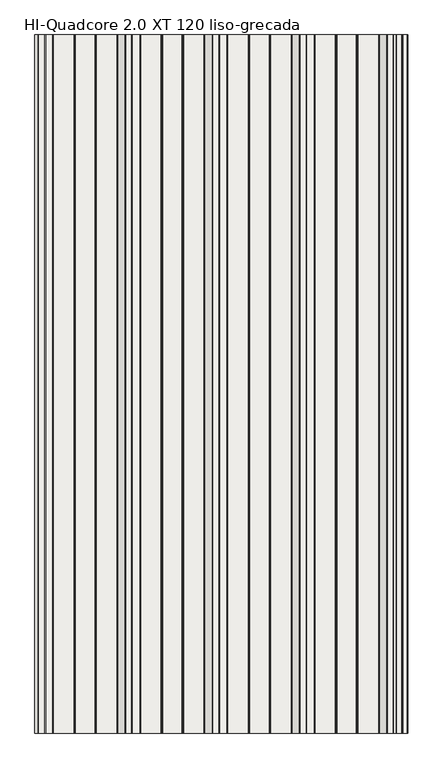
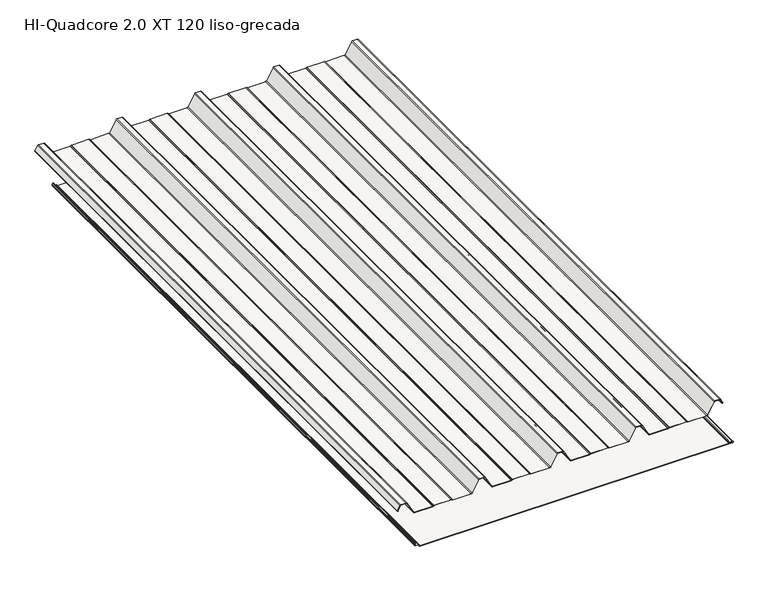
"""IFC4 building model written with IfcOpenShell, lengths in millimetres: slab geometry, HI_QuadCore2.0XT-XT DUAL : HI-Quadcore 2.0 XT 120 liso-grecada."""

from ifc_helpers import new_model, si_unit, point, frame, frame_2d, origin, place, context, project, spatial, polyline, circle_curve, trimmed, segment, composite_curve, outline, extrude, source, transform, mapped, element, save
from ifc_brep_helpers import plane_surface, cylinder_surface, revolved_surface, advanced_brep


def hi_quadcore_2_0_xt_120_liso_grecada_8e815707(model_context):
    return source(origin(), model_context, "Body", "SolidModel", [
        advanced_brep(
        [(1186.4313891, 0.0, 13.3795578), (1185.8456418, 0.0, 11.9654043), (1185.8456037, 0.0, 8.2995811), (1187.6996787, 0.0, 6.328543), (1198.1077232, 0.0, 5.5663871), (1199.9032632, 0.0, 3.5769209), (1199.9033076, 0.0, 1.9756011), (1201.903363, 0.0, -0.0243435), (2197.9162803, 0.0, 0.003269), (2199.9046779, 0.0, 2.0032908), (2199.904653, 0.0, 2.9012893), (2198.0077486, 0.0, 4.8985749), (2186.1928118, 0.0, 5.7933732), (2184.3438482, 0.0, 7.7876066), (2184.3437386, 0.0, 11.7402379), (2183.757913, 0.0, 13.1544352), (2182.3436602, 0.0, 14.5686095), (2181.7779748, 0.0, 14.0029241), (2183.1922433, 0.0, 12.5887341), (2183.5437386, 0.0, 11.7402157), (2183.5438482, 0.0, 7.7875844), (2186.1323972, 0.0, 4.9956577), (2197.958132, 0.0, 4.1000416), (2199.104653, 0.0, 2.9012672), (2199.1046779, 0.0, 2.0032686), (2197.9136554, 0.0, 0.8032689), (1201.9033408, 0.0, 0.7756565), (1200.7033076, 0.0, 1.9756233), (1200.7032632, 0.0, 3.5769431), (1198.1768616, 0.0, 6.3634663), (1187.7581044, 0.0, 7.1264067), (1186.6457428, 0.0, 8.3231689), (1186.6456418, 0.0, 11.965396), (1186.9970902, 0.0, 12.8138881), (1189.1032183, 0.0, 14.920133), (1188.5375329, 0.0, 15.4858184), (1186.4313891, 2000.0, 13.3795578), (1188.5375329, 2000.0, 15.4858184), (1189.1032183, 2000.0, 14.920133), (1186.9970902, 2000.0, 12.8138881), (1186.6456418, 2000.0, 11.965396), (1186.6456037, 2000.0, 8.2995728), (1187.7581044, 2000.0, 7.1264067), (1198.1768616, 2000.0, 6.3634663), (1200.7032632, 2000.0, 3.5769431), (1200.7033076, 2000.0, 1.9756233), (1201.9033408, 2000.0, 0.7756565), (2197.9136554, 2000.0, 0.8032689), (2199.1046779, 2000.0, 2.0032686), (2199.104653, 2000.0, 2.9012672), (2197.958132, 2000.0, 4.1000416), (2186.1323972, 2000.0, 4.9956577), (2183.5438482, 2000.0, 7.7875844), (2183.5437386, 2000.0, 11.7402157), (2183.1922433, 2000.0, 12.5887341), (2181.7779748, 2000.0, 14.0029241), (2182.3436602, 2000.0, 14.5686095), (2183.757913, 2000.0, 13.1544352), (2184.3437386, 2000.0, 11.7402379), (2184.3438482, 2000.0, 7.7876066), (2186.1928118, 2000.0, 5.7933732), (2198.0077486, 2000.0, 4.8985749), (2199.904653, 2000.0, 2.9012893), (2199.9046779, 2000.0, 2.0032908), (2197.9162803, 2000.0, 0.003269), (1201.903363, 2000.0, -0.0243435), (1199.9033076, 2000.0, 1.9756011), (1199.9032632, 2000.0, 3.5769209), (1198.1077232, 2000.0, 5.5663871), (1187.6996787, 2000.0, 6.328543), (1185.8457428, 2000.0, 8.3231467), (1185.8456418, 2000.0, 11.9654043)],
        [
            (0, 1, circle_curve(frame((1187.8456418, 0.0, 11.9653834), z_axis=(0.0, -1.0, 0.0), x_axis=(1.0, 0.0, 0.0)), 2.0)),
            (1, 2),
            (2, 3, circle_curve(frame((1187.8457428, 0.0, 8.3232022), z_axis=(0.0, -1.0, 0.0), x_axis=(1.0, 0.0, 0.0)), 2.0)),
            (3, 4),
            (4, 5, circle_curve(frame((1197.9032632, 0.0, 3.5768655), z_axis=(0.0, 1.0, 0.0), x_axis=(1.0, 0.0, 0.0)), 2.0)),
            (5, 6),
            (6, 7, circle_curve(frame((1201.9033076, 0.0, 1.9756565), z_axis=(0.0, -1.0, 0.0), x_axis=(1.0, 0.0, 0.0)), 2.0)),
            (7, 8),
            (8, 9, circle_curve(frame((2197.9046779, 0.0, 2.0032353), z_axis=(0.0, -1.0, 0.0), x_axis=(1.0, 0.0, 0.0)), 2.0)),
            (9, 10),
            (10, 11, circle_curve(frame((2197.904653, 0.0, 2.9012339), z_axis=(0.0, -1.0, 0.0), x_axis=(1.0, 0.0, 0.0)), 2.0)),
            (11, 12),
            (12, 13, circle_curve(frame((2186.3438482, 0.0, 7.7876621), z_axis=(0.0, 1.0, 0.0), x_axis=(1.0, 0.0, 0.0)), 2.0)),
            (13, 14),
            (14, 15, circle_curve(frame((2182.3437386, 0.0, 11.7401824), z_axis=(0.0, -1.0, 0.0), x_axis=(1.0, 0.0, 0.0)), 2.0)),
            (15, 16),
            (16, 17),
            (17, 18),
            (18, 19, circle_curve(frame((2182.3437386, 0.0, 11.7401824), z_axis=(0.0, 1.0, 0.0), x_axis=(1.0, 0.0, 0.0)), 1.2)),
            (19, 20),
            (20, 21, circle_curve(frame((2186.3438482, 0.0, 7.7876621), z_axis=(0.0, -1.0, 0.0), x_axis=(1.0, 0.0, 0.0)), 2.8)),
            (21, 22),
            (22, 23, circle_curve(frame((2197.904653, 0.0, 2.9012339), z_axis=(0.0, 1.0, 0.0), x_axis=(1.0, 0.0, 0.0)), 1.2)),
            (23, 24),
            (24, 25, circle_curve(frame((2197.9046779, 0.0, 2.0032353), z_axis=(0.0, 1.0, 0.0), x_axis=(1.0, 0.0, 0.0)), 1.2)),
            (25, 26),
            (26, 27, circle_curve(frame((1201.9033076, 0.0, 1.9756565), z_axis=(0.0, 1.0, 0.0), x_axis=(1.0, 0.0, 0.0)), 1.2)),
            (27, 28),
            (28, 29, circle_curve(frame((1197.9032632, 0.0, 3.5768655), z_axis=(0.0, -1.0, 0.0), x_axis=(1.0, 0.0, 0.0)), 2.8)),
            (29, 30),
            (30, 31, circle_curve(frame((1187.8457428, 0.0, 8.3232022), z_axis=(0.0, 1.0, 0.0), x_axis=(1.0, 0.0, 0.0)), 1.2)),
            (31, 32),
            (32, 33, circle_curve(frame((1187.8456418, 0.0, 11.9653834), z_axis=(0.0, 1.0, 0.0), x_axis=(1.0, 0.0, 0.0)), 1.2)),
            (33, 34),
            (34, 35),
            (35, 0),
            (36, 37),
            (37, 38),
            (38, 39),
            (39, 40, circle_curve(frame((1187.8456418, 2000.0, 11.9653834), z_axis=(0.0, -1.0, 0.0), x_axis=(1.0, 0.0, 0.0)), 1.2)),
            (40, 41),
            (41, 42, circle_curve(frame((1187.8457428, 2000.0, 8.3232022), z_axis=(0.0, -1.0, 0.0), x_axis=(1.0, 0.0, 0.0)), 1.2)),
            (42, 43),
            (43, 44, circle_curve(frame((1197.9032632, 2000.0, 3.5768655), z_axis=(0.0, 1.0, 0.0), x_axis=(1.0, 0.0, 0.0)), 2.8)),
            (44, 45),
            (45, 46, circle_curve(frame((1201.9033076, 2000.0, 1.9756565), z_axis=(0.0, -1.0, 0.0), x_axis=(1.0, 0.0, 0.0)), 1.2)),
            (46, 47),
            (47, 48, circle_curve(frame((2197.9046779, 2000.0, 2.0032353), z_axis=(0.0, -1.0, 0.0), x_axis=(1.0, 0.0, 0.0)), 1.2)),
            (48, 49),
            (49, 50, circle_curve(frame((2197.904653, 2000.0, 2.9012339), z_axis=(0.0, -1.0, 0.0), x_axis=(1.0, 0.0, 0.0)), 1.2)),
            (50, 51),
            (51, 52, circle_curve(frame((2186.3438482, 2000.0, 7.7876621), z_axis=(0.0, 1.0, 0.0), x_axis=(1.0, 0.0, 0.0)), 2.8)),
            (52, 53),
            (53, 54, circle_curve(frame((2182.3437386, 2000.0, 11.7401824), z_axis=(0.0, -1.0, 0.0), x_axis=(1.0, 0.0, 0.0)), 1.2)),
            (54, 55),
            (55, 56),
            (56, 57),
            (57, 58, circle_curve(frame((2182.3437386, 2000.0, 11.7401824), z_axis=(0.0, 1.0, 0.0), x_axis=(1.0, 0.0, 0.0)), 2.0)),
            (58, 59),
            (59, 60, circle_curve(frame((2186.3438482, 2000.0, 7.7876621), z_axis=(0.0, -1.0, 0.0), x_axis=(1.0, 0.0, 0.0)), 2.0)),
            (60, 61),
            (61, 62, circle_curve(frame((2197.904653, 2000.0, 2.9012339), z_axis=(0.0, 1.0, 0.0), x_axis=(1.0, 0.0, 0.0)), 2.0)),
            (62, 63),
            (63, 64, circle_curve(frame((2197.9046779, 2000.0, 2.0032353), z_axis=(0.0, 1.0, 0.0), x_axis=(1.0, 0.0, 0.0)), 2.0)),
            (64, 65),
            (65, 66, circle_curve(frame((1201.9033076, 2000.0, 1.9756565), z_axis=(0.0, 1.0, 0.0), x_axis=(1.0, 0.0, 0.0)), 2.0)),
            (66, 67),
            (67, 68, circle_curve(frame((1197.9032632, 2000.0, 3.5768655), z_axis=(0.0, -1.0, 0.0), x_axis=(1.0, 0.0, 0.0)), 2.0)),
            (68, 69),
            (69, 70, circle_curve(frame((1187.8457428, 2000.0, 8.3232022), z_axis=(0.0, 1.0, 0.0), x_axis=(1.0, 0.0, 0.0)), 2.0)),
            (70, 71),
            (71, 36, circle_curve(frame((1187.8456418, 2000.0, 11.9653834), z_axis=(0.0, 1.0, 0.0), x_axis=(1.0, 0.0, 0.0)), 2.0)),
            (0, 36),
            (71, 1),
            (70, 2),
            (69, 3),
            (68, 4),
            (67, 5),
            (66, 6),
            (65, 7),
            (64, 8),
            (63, 9),
            (62, 10),
            (61, 11),
            (60, 12),
            (59, 13),
            (58, 14),
            (57, 15),
            (56, 16),
            (55, 17),
            (54, 18),
            (53, 19),
            (52, 20),
            (51, 21),
            (50, 22),
            (49, 23),
            (48, 24),
            (47, 25),
            (46, 26),
            (45, 27),
            (44, 28),
            (43, 29),
            (42, 30),
            (41, 31),
            (40, 32),
            (39, 33),
            (38, 34),
            (37, 35),
        ],
        [
            plane_surface(frame((1189.8456418, 0.0, 11.9653834), z_axis=(0.0, -1.0, 0.0), x_axis=(0.0, 0.0, 1.0))),
            plane_surface(frame((1189.8456418, 2000.0, 11.9653834), z_axis=(0.0, 1.0, 0.0), x_axis=(0.0, 0.0, -1.0))),
            cylinder_surface(frame((1187.8456418, 2000.0, 11.9653834), z_axis=(0.0, -1.0, 0.0), x_axis=(1.0, 0.0, 0.0)), 2.0),
            plane_surface(frame((1185.8456418, 0.0, 11.9654043), z_axis=(-0.9999999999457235, 0.0, 1.041887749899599e-05), x_axis=(0.0, 1.0, 0.0))),
            cylinder_surface(frame((1187.8457428, 2000.0, 8.3232022), z_axis=(0.0, -1.0, 0.0), x_axis=(1.0, 0.0, 0.0)), 2.0),
            plane_surface(frame((1187.6996787, 0.0, 6.328543), z_axis=(-0.07303203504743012, 0.0, -0.9973295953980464), x_axis=(0.0, 1.0, 0.0))),
            revolved_surface(polyline([(1199.9032632, 2000.0, 3.5768655), (1199.9032632, 0.0, 3.5768655)]), (1197.9032632, 2000.0, 3.5768655), (0.0, 1.0, 0.0)),
            plane_surface(frame((1199.9032632, 0.0, 3.5769209), z_axis=(-0.9999999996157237, 0.0, -2.7722781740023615e-05), x_axis=(0.0, 1.0, 0.0))),
            cylinder_surface(frame((1201.9033076, 2000.0, 1.9756565), z_axis=(0.0, -1.0, 0.0), x_axis=(1.0, 0.0, 0.0)), 2.0),
            plane_surface(frame((1201.903363, 0.0, -0.0243435), z_axis=(2.772298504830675e-05, 0.0, -0.9999999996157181), x_axis=(0.0, 1.0, 0.0))),
            cylinder_surface(frame((2197.9046779, 2000.0, 2.0032353), z_axis=(0.0, -1.0, 0.0), x_axis=(1.0, 0.0, 0.0)), 2.0),
            plane_surface(frame((2199.9046779, 0.0, 2.0032908), z_axis=(0.9999999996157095, 0.0, 2.7723295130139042e-05), x_axis=(0.0, 1.0, 0.0))),
            cylinder_surface(frame((2197.904653, 2000.0, 2.9012339), z_axis=(0.0, -1.0, 0.0), x_axis=(1.0, 0.0, 0.0)), 2.0),
            plane_surface(frame((2198.0077486, 0.0, 4.8985749), z_axis=(0.07551822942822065, 0.0, 0.9971444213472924), x_axis=(0.0, 1.0, 0.0))),
            revolved_surface(polyline([(2188.3438482, 2000.0, 7.7876621), (2188.3438482, 0.0, 7.7876621)]), (2186.3438482, 2000.0, 7.7876621), (0.0, 1.0, 0.0)),
            plane_surface(frame((2184.3438482, 0.0, 7.7876066), z_axis=(0.9999999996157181, 0.0, 2.7722984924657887e-05), x_axis=(0.0, 1.0, 0.0))),
            cylinder_surface(frame((2182.3437386, 2000.0, 11.7401824), z_axis=(0.0, -1.0, 0.0), x_axis=(1.0, 0.0, 0.0)), 2.0),
            plane_surface(frame((2183.757913, 0.0, 13.1544352), z_axis=(0.7070871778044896, 0.0, 0.7071263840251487), x_axis=(0.0, 1.0, 0.0))),
            plane_surface(frame((2182.3436602, 0.0, 14.5686095), z_axis=(-0.7071067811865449, 0.0, 0.7071067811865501), x_axis=(0.0, 1.0, 0.0))),
            plane_surface(frame((2181.7779748, 0.0, 14.0029241), z_axis=(-0.7070871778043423, 0.0, -0.707126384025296), x_axis=(0.0, 1.0, 0.0))),
            revolved_surface(polyline([(2183.5437386, 2000.0, 11.7401824), (2183.5437386, 0.0, 11.7401824)]), (2182.3437386, 2000.0, 11.7401824), (0.0, 1.0, 0.0)),
            plane_surface(frame((2183.5437386, 0.0, 11.7402157), z_axis=(-0.9999999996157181, 0.0, -2.7722985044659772e-05), x_axis=(0.0, 1.0, 0.0))),
            cylinder_surface(frame((2186.3438482, 2000.0, 7.7876621), z_axis=(0.0, -1.0, 0.0), x_axis=(1.0, 0.0, 0.0)), 2.8),
            plane_surface(frame((2186.1323972, 0.0, 4.9956577), z_axis=(-0.07551822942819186, 0.0, -0.9971444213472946), x_axis=(0.0, 1.0, 0.0))),
            revolved_surface(polyline([(2199.104653, 2000.0, 2.9012339), (2199.104653, 0.0, 2.9012339)]), (2197.904653, 2000.0, 2.9012339), (0.0, 1.0, 0.0)),
            plane_surface(frame((2199.104653, 0.0, 2.9012672), z_axis=(-0.9999999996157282, 0.0, -2.7722622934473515e-05), x_axis=(0.0, 1.0, 0.0))),
            revolved_surface(polyline([(2199.1046779, 2000.0, 2.0032353), (2199.1046779, 0.0, 2.0032353)]), (2197.9046779, 2000.0, 2.0032353), (0.0, 1.0, 0.0)),
            plane_surface(frame((2197.9136554, 0.0, 0.8032689), z_axis=(-2.7722985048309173e-05, 0.0, 0.9999999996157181), x_axis=(0.0, 1.0, 0.0))),
            revolved_surface(polyline([(1203.1033076, 2000.0, 1.9756565), (1203.1033076, 0.0, 1.9756565)]), (1201.9033076, 2000.0, 1.9756565), (0.0, 1.0, 0.0)),
            plane_surface(frame((1200.7033076, 0.0, 1.9756233), z_axis=(0.9999999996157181, 0.0, 2.7722983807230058e-05), x_axis=(0.0, 1.0, 0.0))),
            cylinder_surface(frame((1197.9032632, 2000.0, 3.5768655), z_axis=(0.0, -1.0, 0.0), x_axis=(1.0, 0.0, 0.0)), 2.8),
            plane_surface(frame((1198.1768616, 0.0, 6.3634663), z_axis=(0.0730320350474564, 0.0, 0.9973295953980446), x_axis=(0.0, 1.0, 0.0))),
            revolved_surface(polyline([(1189.0457428, 2000.0, 8.3232022), (1189.0457428, 0.0, 8.3232022)]), (1187.8457428, 2000.0, 8.3232022), (0.0, 1.0, 0.0)),
            plane_surface(frame((1186.6456037, 0.0, 8.2995728), z_axis=(0.9999999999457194, 0.0, -1.0419274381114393e-05), x_axis=(0.0, 1.0, 0.0))),
            revolved_surface(polyline([(1189.0456418, 2000.0, 11.9653834), (1189.0456418, 0.0, 11.9653834)]), (1187.8456418, 2000.0, 11.9653834), (0.0, 1.0, 0.0)),
            plane_surface(frame((1186.9970902, 0.0, 12.8138881), z_axis=(0.7071263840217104, 0.0, -0.7070871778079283), x_axis=(0.0, 1.0, 0.0))),
            plane_surface(frame((1189.1032183, 0.0, 14.920133), z_axis=(0.7071067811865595, 0.0, 0.7071067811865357), x_axis=(0.0, 1.0, 0.0))),
            plane_surface(frame((1188.5375329, 0.0, 15.4858184), z_axis=(-0.7071263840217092, 0.0, 0.7070871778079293), x_axis=(0.0, 1.0, 0.0))),
        ],
        [
            (0, [[1, 2, 3, 4, 5, 6, 7, 8, 9, 10, 11, 12, 13, 14, 15, 16, 17, 18, 19, 20, 21, 22, 23, 24, 25, 26, 27, 28, 29, 30, 31, 32, 33, 34, 35, 36]]),
            (1, [[37, 38, 39, 40, 41, 42, 43, 44, 45, 46, 47, 48, 49, 50, 51, 52, 53, 54, 55, 56, 57, 58, 59, 60, 61, 62, 63, 64, 65, 66, 67, 68, 69, 70, 71, 72]]),
            (2, [[-1, 73, -72, 74]]),
            (3, [[-2, -74, -71, 75]]),
            (4, [[-3, -75, -70, 76]]),
            (5, [[-4, -76, -69, 77]]),
            (6, [[-5, -77, -68, 78]]),
            (7, [[-6, -78, -67, 79]]),
            (8, [[-7, -79, -66, 80]]),
            (9, [[-8, -80, -65, 81]]),
            (10, [[-9, -81, -64, 82]]),
            (11, [[-10, -82, -63, 83]]),
            (12, [[-11, -83, -62, 84]]),
            (13, [[-12, -84, -61, 85]]),
            (14, [[-13, -85, -60, 86]]),
            (15, [[-14, -86, -59, 87]]),
            (16, [[-15, -87, -58, 88]]),
            (17, [[-16, -88, -57, 89]]),
            (18, [[-17, -89, -56, 90]]),
            (19, [[-18, -90, -55, 91]]),
            (20, [[-19, -91, -54, 92]]),
            (21, [[-20, -92, -53, 93]]),
            (22, [[-21, -93, -52, 94]]),
            (23, [[-22, -94, -51, 95]]),
            (24, [[-23, -95, -50, 96]]),
            (25, [[-24, -96, -49, 97]]),
            (26, [[-25, -97, -48, 98]]),
            (27, [[-26, -98, -47, 99]]),
            (28, [[-27, -99, -46, 100]]),
            (29, [[-28, -100, -45, 101]]),
            (30, [[-29, -101, -44, 102]]),
            (31, [[-30, -102, -43, 103]]),
            (32, [[-31, -103, -42, 104]]),
            (33, [[-32, -104, -41, 105]]),
            (34, [[-33, -105, -40, 106]]),
            (35, [[-34, -106, -39, 107]]),
            (36, [[-35, -107, -38, 108]]),
            (37, [[-36, -108, -37, -73]]),
        ],
    ),
        extrude(outline(composite_curve([segment(polyline([(158.1649405, 1138.5141429), (143.6579587, 1130.3539656)]), True, "CONTINUOUS"), segment(trimmed(circle_curve(frame_2d((143.0451321, 1131.443435)), 1.25), [point((143.6579587, 1130.3539656))], [point((142.689225, 1132.6416963))], False, "CARTESIAN"), True, "CONTINUOUS"), segment(polyline([(142.689225, 1132.6416963), (145.7359115, 1133.437141), (145.9380053, 1132.663088), (142.9074492, 1131.8718547)]), True, "CONTINUOUS"), segment(trimmed(circle_curve(frame_2d((143.0451321, 1131.443435)), 0.45), [point((142.9074492, 1131.8718547))], [point((143.2657497, 1131.051226))], True, "CARTESIAN"), True, "CONTINUOUS"), segment(polyline([(143.2657497, 1131.051226), (157.7727315, 1139.2114033)]), True, "CONTINUOUS"), segment(trimmed(circle_curve(frame_2d((156.4, 1141.6518148)), 2.8), [point((157.7727315, 1139.2114033))], [point((159.2, 1141.6518148))], True, "CARTESIAN"), True, "CONTINUOUS"), segment(polyline([(159.2, 1141.6518148), (159.2, 1158.9311117)]), True, "CONTINUOUS"), segment(trimmed(circle_curve(frame_2d((156.4, 1158.9311117)), 2.8), [point((159.2, 1158.9311117))], [point((157.5457267, 1161.4859719))], True, "CARTESIAN"), True, "CONTINUOUS"), segment(polyline([(157.5457267, 1161.4859719), (121.2048889, 1181.3052775)]), True, "CONTINUOUS"), segment(trimmed(circle_curve(frame_2d((123.0, 1184.6545425)), 3.8), [point((121.2048889, 1181.3052775))], [point((119.2, 1184.6545425))], False, "CARTESIAN"), True, "CONTINUOUS"), segment(polyline([(119.2, 1184.6545425), (119.2, 1242.4489557)]), True, "CONTINUOUS"), segment(trimmed(circle_curve(frame_2d((123.0, 1242.4489557)), 3.8), [point((119.2, 1242.4489557))], [point((119.6973596, 1244.328468))], False, "CARTESIAN"), True, "CONTINUOUS"), segment(polyline([(119.6973596, 1244.328468), (120.912055, 1246.4629056)]), True, "CONTINUOUS"), segment(trimmed(circle_curve(frame_2d((119.0, 1247.5510443)), 2.2), [point((120.912055, 1246.4629056))], [point((121.2, 1247.5510443))], True, "CARTESIAN"), True, "CONTINUOUS"), segment(polyline([(121.2, 1247.5510443), (121.2, 1302.4489557)]), True, "CONTINUOUS"), segment(trimmed(circle_curve(frame_2d((119.0, 1302.4489557)), 2.2), [point((121.2, 1302.4489557))], [point((120.912055, 1303.5370944))], True, "CARTESIAN"), True, "CONTINUOUS"), segment(polyline([(120.912055, 1303.5370944), (119.6973596, 1305.671532)]), True, "CONTINUOUS"), segment(trimmed(circle_curve(frame_2d((123.0, 1307.5510443)), 3.8), [point((119.6973596, 1305.671532))], [point((119.2, 1307.5510443))], False, "CARTESIAN"), True, "CONTINUOUS"), segment(polyline([(119.2, 1307.5510443), (119.2, 1365.7454575)]), True, "CONTINUOUS"), segment(trimmed(circle_curve(frame_2d((123.0, 1365.7454575)), 3.8), [point((119.2, 1365.7454575))], [point((121.1370073, 1369.0574446))], False, "CARTESIAN"), True, "CONTINUOUS"), segment(polyline([(121.1370073, 1369.0574446), (158.0785747, 1389.8370763)]), True, "CONTINUOUS"), segment(trimmed(circle_curve(frame_2d((157.0, 1391.7545425)), 2.2), [point((158.0785747, 1389.8370763))], [point((159.2, 1391.7545425))], True, "CARTESIAN"), True, "CONTINUOUS"), segment(polyline([(159.2, 1391.7545425), (159.2, 1408.2454575)]), True, "CONTINUOUS"), segment(trimmed(circle_curve(frame_2d((157.0, 1408.2454575)), 2.2), [point((159.2, 1408.2454575))], [point((158.0785747, 1410.1629237))], True, "CARTESIAN"), True, "CONTINUOUS"), segment(polyline([(158.0785747, 1410.1629237), (121.1370073, 1430.9425554)]), True, "CONTINUOUS"), segment(trimmed(circle_curve(frame_2d((123.0, 1434.2545425)), 3.8), [point((121.1370073, 1430.9425554))], [point((119.2, 1434.2545425))], False, "CARTESIAN"), True, "CONTINUOUS"), segment(polyline([(119.2, 1434.2545425), (119.2, 1492.4489557)]), True, "CONTINUOUS"), segment(trimmed(circle_curve(frame_2d((123.0, 1492.4489557)), 3.8), [point((119.2, 1492.4489557))], [point((119.6973596, 1494.328468))], False, "CARTESIAN"), True, "CONTINUOUS"), segment(polyline([(119.6973596, 1494.328468), (120.912055, 1496.4629056)]), True, "CONTINUOUS"), segment(trimmed(circle_curve(frame_2d((119.0, 1497.5510443)), 2.2), [point((120.912055, 1496.4629056))], [point((121.2, 1497.5510443))], True, "CARTESIAN"), True, "CONTINUOUS"), segment(polyline([(121.2, 1497.5510443), (121.2, 1552.4489557)]), True, "CONTINUOUS"), segment(trimmed(circle_curve(frame_2d((119.0, 1552.4489557)), 2.2), [point((121.2, 1552.4489557))], [point((120.912055, 1553.5370944))], True, "CARTESIAN"), True, "CONTINUOUS"), segment(polyline([(120.912055, 1553.5370944), (119.6973596, 1555.671532)]), True, "CONTINUOUS"), segment(trimmed(circle_curve(frame_2d((123.0, 1557.5510443)), 3.8), [point((119.6973596, 1555.671532))], [point((119.2, 1557.5510443))], False, "CARTESIAN"), True, "CONTINUOUS"), segment(polyline([(119.2, 1557.5510443), (119.2, 1615.7454575)]), True, "CONTINUOUS"), segment(trimmed(circle_curve(frame_2d((123.0, 1615.7454575)), 3.8), [point((119.2, 1615.7454575))], [point((121.1370073, 1619.0574446))], False, "CARTESIAN"), True, "CONTINUOUS"), segment(polyline([(121.1370073, 1619.0574446), (158.0785747, 1639.8370763)]), True, "CONTINUOUS"), segment(trimmed(circle_curve(frame_2d((157.0, 1641.7545425)), 2.2), [point((158.0785747, 1639.8370763))], [point((159.2, 1641.7545425))], True, "CARTESIAN"), True, "CONTINUOUS"), segment(polyline([(159.2, 1641.7545425), (159.2, 1658.2454575)]), True, "CONTINUOUS"), segment(trimmed(circle_curve(frame_2d((157.0, 1658.2454575)), 2.2), [point((159.2, 1658.2454575))], [point((158.0785747, 1660.1629237))], True, "CARTESIAN"), True, "CONTINUOUS"), segment(polyline([(158.0785747, 1660.1629237), (121.1370073, 1680.9425554)]), True, "CONTINUOUS"), segment(trimmed(circle_curve(frame_2d((123.0, 1684.2545425)), 3.8), [point((121.1370073, 1680.9425554))], [point((119.2, 1684.2545425))], False, "CARTESIAN"), True, "CONTINUOUS"), segment(polyline([(119.2, 1684.2545425), (119.2, 1742.4489557)]), True, "CONTINUOUS"), segment(trimmed(circle_curve(frame_2d((123.0, 1742.4489557)), 3.8), [point((119.2, 1742.4489557))], [point((119.6973596, 1744.328468))], False, "CARTESIAN"), True, "CONTINUOUS"), segment(polyline([(119.6973596, 1744.328468), (120.912055, 1746.4629056)]), True, "CONTINUOUS"), segment(trimmed(circle_curve(frame_2d((119.0, 1747.5510443)), 2.2), [point((120.912055, 1746.4629056))], [point((121.2, 1747.5510443))], True, "CARTESIAN"), True, "CONTINUOUS"), segment(polyline([(121.2, 1747.5510443), (121.2, 1802.4489557)]), True, "CONTINUOUS"), segment(trimmed(circle_curve(frame_2d((119.0, 1802.4489557)), 2.2), [point((121.2, 1802.4489557))], [point((120.912055, 1803.5370944))], True, "CARTESIAN"), True, "CONTINUOUS"), segment(polyline([(120.912055, 1803.5370944), (119.6973596, 1805.671532)]), True, "CONTINUOUS"), segment(trimmed(circle_curve(frame_2d((123.0, 1807.5510443)), 3.8), [point((119.6973596, 1805.671532))], [point((119.2, 1807.5510443))], False, "CARTESIAN"), True, "CONTINUOUS"), segment(polyline([(119.2, 1807.5510443), (119.2, 1865.7454575)]), True, "CONTINUOUS"), segment(trimmed(circle_curve(frame_2d((123.0, 1865.7454575)), 3.8), [point((119.2, 1865.7454575))], [point((121.1370073, 1869.0574446))], False, "CARTESIAN"), True, "CONTINUOUS"), segment(polyline([(121.1370073, 1869.0574446), (158.0785747, 1889.8370763)]), True, "CONTINUOUS"), segment(trimmed(circle_curve(frame_2d((157.0, 1891.7545425)), 2.2), [point((158.0785747, 1889.8370763))], [point((159.2, 1891.7545425))], True, "CARTESIAN"), True, "CONTINUOUS"), segment(polyline([(159.2, 1891.7545425), (159.2, 1908.2454575)]), True, "CONTINUOUS"), segment(trimmed(circle_curve(frame_2d((157.0, 1908.2454575)), 2.2), [point((159.2, 1908.2454575))], [point((158.0785747, 1910.1629237))], True, "CARTESIAN"), True, "CONTINUOUS"), segment(polyline([(158.0785747, 1910.1629237), (121.1370073, 1930.9425554)]), True, "CONTINUOUS"), segment(trimmed(circle_curve(frame_2d((123.0, 1934.2545425)), 3.8), [point((121.1370073, 1930.9425554))], [point((119.2, 1934.2545425))], False, "CARTESIAN"), True, "CONTINUOUS"), segment(polyline([(119.2, 1934.2545425), (119.2, 1992.4489557)]), True, "CONTINUOUS"), segment(trimmed(circle_curve(frame_2d((123.0, 1992.4489557)), 3.8), [point((119.2, 1992.4489557))], [point((119.6973596, 1994.328468))], False, "CARTESIAN"), True, "CONTINUOUS"), segment(polyline([(119.6973596, 1994.328468), (120.912055, 1996.4629056)]), True, "CONTINUOUS"), segment(trimmed(circle_curve(frame_2d((119.0, 1997.5510443)), 2.2), [point((120.912055, 1996.4629056))], [point((121.2, 1997.5510443))], True, "CARTESIAN"), True, "CONTINUOUS"), segment(polyline([(121.2, 1997.5510443), (121.2, 2052.4489557)]), True, "CONTINUOUS"), segment(trimmed(circle_curve(frame_2d((119.0, 2052.4489557)), 2.2), [point((121.2, 2052.4489557))], [point((120.912055, 2053.5370944))], True, "CARTESIAN"), True, "CONTINUOUS"), segment(polyline([(120.912055, 2053.5370944), (119.6973596, 2055.671532)]), True, "CONTINUOUS"), segment(trimmed(circle_curve(frame_2d((123.0, 2057.5510443)), 3.8), [point((119.6973596, 2055.671532))], [point((119.2, 2057.5510443))], False, "CARTESIAN"), True, "CONTINUOUS"), segment(polyline([(119.2, 2057.5510443), (119.2, 2116.4208923)]), True, "CONTINUOUS"), segment(trimmed(circle_curve(frame_2d((123.0, 2116.4208923)), 3.8), [point((119.2, 2116.4208923))], [point((121.1583504, 2119.7447946))], False, "CARTESIAN"), True, "CONTINUOUS"), segment(polyline([(121.1583504, 2119.7447946), (158.0662182, 2140.1940602)]), True, "CONTINUOUS"), segment(trimmed(circle_curve(frame_2d((157.0, 2142.1184247)), 2.2), [point((158.0662182, 2140.1940602))], [point((159.2, 2142.1184247))], True, "CARTESIAN"), True, "CONTINUOUS"), segment(polyline([(159.2, 2142.1184247), (159.2, 2157.4945491)]), True, "CONTINUOUS"), segment(trimmed(circle_curve(frame_2d((157.0, 2157.4945491)), 2.2), [point((159.2, 2157.4945491))], [point((158.0785747, 2159.4120152))], True, "CARTESIAN"), True, "CONTINUOUS"), segment(polyline([(158.0785747, 2159.4120152), (147.5275176, 2165.3469849)]), True, "CONTINUOUS"), segment(trimmed(circle_curve(frame_2d((146.9392041, 2164.3010942)), 1.2), [point((147.5275176, 2165.3469849))], [point((146.3392623, 2165.3403583))], True, "CARTESIAN"), True, "CONTINUOUS"), segment(polyline([(146.3392623, 2165.3403583), (144.7281681, 2164.4103128), (144.3282068, 2165.1031555), (145.939301, 2166.033201)]), True, "CONTINUOUS"), segment(trimmed(circle_curve(frame_2d((146.9392041, 2164.3010942)), 2.0), [point((145.939301, 2166.033201))], [point((147.9197266, 2166.0442453))], False, "CARTESIAN"), True, "CONTINUOUS"), segment(polyline([(147.9197266, 2166.0442453), (158.4707837, 2160.1092757)]), True, "CONTINUOUS"), segment(trimmed(circle_curve(frame_2d((157.0, 2157.4945491)), 3.0), [point((158.4707837, 2160.1092757))], [point((160.0, 2157.4945491))], False, "CARTESIAN"), True, "CONTINUOUS"), segment(polyline([(160.0, 2157.4945491), (160.0, 2142.1184247)]), True, "CONTINUOUS"), segment(trimmed(circle_curve(frame_2d((157.0, 2142.1184247)), 3.0), [point((160.0, 2142.1184247))], [point((158.4539339, 2139.4942913))], False, "CARTESIAN"), True, "CONTINUOUS"), segment(polyline([(158.4539339, 2139.4942913), (121.5460661, 2119.0450257)]), True, "CONTINUOUS"), segment(trimmed(circle_curve(frame_2d((123.0, 2116.4208923)), 3.0), [point((121.5460661, 2119.0450257))], [point((120.0, 2116.4208923))], True, "CARTESIAN"), True, "CONTINUOUS"), segment(polyline([(120.0, 2116.4208923), (120.0, 2057.5510443)]), True, "CONTINUOUS"), segment(trimmed(circle_curve(frame_2d((123.0, 2057.5510443)), 3.0), [point((120.0, 2057.5510443))], [point((120.3926523, 2056.0672188))], True, "CARTESIAN"), True, "CONTINUOUS"), segment(polyline([(120.3926523, 2056.0672188), (121.6073477, 2053.9327812)]), True, "CONTINUOUS"), segment(trimmed(circle_curve(frame_2d((119.0, 2052.4489557)), 3.0), [point((121.6073477, 2053.9327812))], [point((122.0, 2052.4489557))], False, "CARTESIAN"), True, "CONTINUOUS"), segment(polyline([(122.0, 2052.4489557), (122.0, 1997.5510443)]), True, "CONTINUOUS"), segment(trimmed(circle_curve(frame_2d((119.0, 1997.5510443)), 3.0), [point((122.0, 1997.5510443))], [point((121.6073477, 1996.0672188))], False, "CARTESIAN"), True, "CONTINUOUS"), segment(polyline([(121.6073477, 1996.0672188), (120.3926523, 1993.9327812)]), True, "CONTINUOUS"), segment(trimmed(circle_curve(frame_2d((123.0, 1992.4489557)), 3.0), [point((120.3926523, 1993.9327812))], [point((120.0, 1992.4489557))], True, "CARTESIAN"), True, "CONTINUOUS"), segment(polyline([(120.0, 1992.4489557), (120.0, 1934.2545425)]), True, "CONTINUOUS"), segment(trimmed(circle_curve(frame_2d((123.0, 1934.2545425)), 3.0), [point((120.0, 1934.2545425))], [point((121.5292163, 1931.6398158))], True, "CARTESIAN"), True, "CONTINUOUS"), segment(polyline([(121.5292163, 1931.6398158), (158.4707837, 1910.8601842)]), True, "CONTINUOUS"), segment(trimmed(circle_curve(frame_2d((157.0, 1908.2454575)), 3.0), [point((158.4707837, 1910.8601842))], [point((160.0, 1908.2454575))], False, "CARTESIAN"), True, "CONTINUOUS"), segment(polyline([(160.0, 1908.2454575), (160.0, 1891.7545425)]), True, "CONTINUOUS"), segment(trimmed(circle_curve(frame_2d((157.0, 1891.7545425)), 3.0), [point((160.0, 1891.7545425))], [point((158.4707837, 1889.1398158))], False, "CARTESIAN"), True, "CONTINUOUS"), segment(polyline([(158.4707837, 1889.1398158), (121.5292163, 1868.3601842)]), True, "CONTINUOUS"), segment(trimmed(circle_curve(frame_2d((123.0, 1865.7454575)), 3.0), [point((121.5292163, 1868.3601842))], [point((120.0, 1865.7454575))], True, "CARTESIAN"), True, "CONTINUOUS"), segment(polyline([(120.0, 1865.7454575), (120.0, 1807.5510443)]), True, "CONTINUOUS"), segment(trimmed(circle_curve(frame_2d((123.0, 1807.5510443)), 3.0), [point((120.0, 1807.5510443))], [point((120.3926523, 1806.0672188))], True, "CARTESIAN"), True, "CONTINUOUS"), segment(polyline([(120.3926523, 1806.0672188), (121.6073477, 1803.9327812)]), True, "CONTINUOUS"), segment(trimmed(circle_curve(frame_2d((119.0, 1802.4489557)), 3.0), [point((121.6073477, 1803.9327812))], [point((122.0, 1802.4489557))], False, "CARTESIAN"), True, "CONTINUOUS"), segment(polyline([(122.0, 1802.4489557), (122.0, 1747.5510443)]), True, "CONTINUOUS"), segment(trimmed(circle_curve(frame_2d((119.0, 1747.5510443)), 3.0), [point((122.0, 1747.5510443))], [point((121.6073477, 1746.0672188))], False, "CARTESIAN"), True, "CONTINUOUS"), segment(polyline([(121.6073477, 1746.0672188), (120.3926523, 1743.9327812)]), True, "CONTINUOUS"), segment(trimmed(circle_curve(frame_2d((123.0, 1742.4489557)), 3.0), [point((120.3926523, 1743.9327812))], [point((120.0, 1742.4489557))], True, "CARTESIAN"), True, "CONTINUOUS"), segment(polyline([(120.0, 1742.4489557), (120.0, 1684.2545425)]), True, "CONTINUOUS"), segment(trimmed(circle_curve(frame_2d((123.0, 1684.2545425)), 3.0), [point((120.0, 1684.2545425))], [point((121.5292163, 1681.6398158))], True, "CARTESIAN"), True, "CONTINUOUS"), segment(polyline([(121.5292163, 1681.6398158), (158.4707837, 1660.8601842)]), True, "CONTINUOUS"), segment(trimmed(circle_curve(frame_2d((157.0, 1658.2454575)), 3.0), [point((158.4707837, 1660.8601842))], [point((160.0, 1658.2454575))], False, "CARTESIAN"), True, "CONTINUOUS"), segment(polyline([(160.0, 1658.2454575), (160.0, 1641.7545425)]), True, "CONTINUOUS"), segment(trimmed(circle_curve(frame_2d((157.0, 1641.7545425)), 3.0), [point((160.0, 1641.7545425))], [point((158.4707837, 1639.1398158))], False, "CARTESIAN"), True, "CONTINUOUS"), segment(polyline([(158.4707837, 1639.1398158), (121.5292163, 1618.3601842)]), True, "CONTINUOUS"), segment(trimmed(circle_curve(frame_2d((123.0, 1615.7454575)), 3.0), [point((121.5292163, 1618.3601842))], [point((120.0, 1615.7454575))], True, "CARTESIAN"), True, "CONTINUOUS"), segment(polyline([(120.0, 1615.7454575), (120.0, 1557.5510443)]), True, "CONTINUOUS"), segment(trimmed(circle_curve(frame_2d((123.0, 1557.5510443)), 3.0), [point((120.0, 1557.5510443))], [point((120.3926523, 1556.0672188))], True, "CARTESIAN"), True, "CONTINUOUS"), segment(polyline([(120.3926523, 1556.0672188), (121.6073477, 1553.9327812)]), True, "CONTINUOUS"), segment(trimmed(circle_curve(frame_2d((119.0, 1552.4489557)), 3.0), [point((121.6073477, 1553.9327812))], [point((122.0, 1552.4489557))], False, "CARTESIAN"), True, "CONTINUOUS"), segment(polyline([(122.0, 1552.4489557), (122.0, 1497.5510443)]), True, "CONTINUOUS"), segment(trimmed(circle_curve(frame_2d((119.0, 1497.5510443)), 3.0), [point((122.0, 1497.5510443))], [point((121.6073477, 1496.0672188))], False, "CARTESIAN"), True, "CONTINUOUS"), segment(polyline([(121.6073477, 1496.0672188), (120.3926523, 1493.9327812)]), True, "CONTINUOUS"), segment(trimmed(circle_curve(frame_2d((123.0, 1492.4489557)), 3.0), [point((120.3926523, 1493.9327812))], [point((120.0, 1492.4489557))], True, "CARTESIAN"), True, "CONTINUOUS"), segment(polyline([(120.0, 1492.4489557), (120.0, 1434.2545425)]), True, "CONTINUOUS"), segment(trimmed(circle_curve(frame_2d((123.0, 1434.2545425)), 3.0), [point((120.0, 1434.2545425))], [point((121.5292163, 1431.6398158))], True, "CARTESIAN"), True, "CONTINUOUS"), segment(polyline([(121.5292163, 1431.6398158), (158.4707837, 1410.8601842)]), True, "CONTINUOUS"), segment(trimmed(circle_curve(frame_2d((157.0, 1408.2454575)), 3.0), [point((158.4707837, 1410.8601842))], [point((160.0, 1408.2454575))], False, "CARTESIAN"), True, "CONTINUOUS"), segment(polyline([(160.0, 1408.2454575), (160.0, 1391.7545425)]), True, "CONTINUOUS"), segment(trimmed(circle_curve(frame_2d((157.0, 1391.7545425)), 3.0), [point((160.0, 1391.7545425))], [point((158.4707837, 1389.1398158))], False, "CARTESIAN"), True, "CONTINUOUS"), segment(polyline([(158.4707837, 1389.1398158), (121.5292163, 1368.3601842)]), True, "CONTINUOUS"), segment(trimmed(circle_curve(frame_2d((123.0, 1365.7454575)), 3.0), [point((121.5292163, 1368.3601842))], [point((120.0, 1365.7454575))], True, "CARTESIAN"), True, "CONTINUOUS"), segment(polyline([(120.0, 1365.7454575), (120.0, 1307.5510443)]), True, "CONTINUOUS"), segment(trimmed(circle_curve(frame_2d((123.0, 1307.5510443)), 3.0), [point((120.0, 1307.5510443))], [point((120.3926523, 1306.0672188))], True, "CARTESIAN"), True, "CONTINUOUS"), segment(polyline([(120.3926523, 1306.0672188), (121.6073477, 1303.9327812)]), True, "CONTINUOUS"), segment(trimmed(circle_curve(frame_2d((119.0, 1302.4489557)), 3.0), [point((121.6073477, 1303.9327812))], [point((122.0, 1302.4489557))], False, "CARTESIAN"), True, "CONTINUOUS"), segment(polyline([(122.0, 1302.4489557), (122.0, 1247.5510443)]), True, "CONTINUOUS"), segment(trimmed(circle_curve(frame_2d((119.0, 1247.5510443)), 3.0), [point((122.0, 1247.5510443))], [point((121.6073477, 1246.0672188))], False, "CARTESIAN"), True, "CONTINUOUS"), segment(polyline([(121.6073477, 1246.0672188), (120.3926523, 1243.9327812)]), True, "CONTINUOUS"), segment(trimmed(circle_curve(frame_2d((123.0, 1242.4489557)), 3.0), [point((120.3926523, 1243.9327812))], [point((120.0, 1242.4489557))], True, "CARTESIAN"), True, "CONTINUOUS"), segment(polyline([(120.0, 1242.4489557), (120.0, 1184.6545425)]), True, "CONTINUOUS"), segment(trimmed(circle_curve(frame_2d((123.0, 1184.6545425)), 3.0), [point((120.0, 1184.6545425))], [point((121.5852209, 1182.0090935))], True, "CARTESIAN"), True, "CONTINUOUS"), segment(polyline([(121.5852209, 1182.0090935), (157.9031732, 1162.2022691)]), True, "CONTINUOUS"), segment(trimmed(circle_curve(frame_2d((156.4, 1158.9311117)), 3.6), [point((157.9031732, 1162.2022691))], [point((160.0, 1158.9311117))], False, "CARTESIAN"), True, "CONTINUOUS"), segment(polyline([(160.0, 1158.9311117), (160.0, 1141.6518148)]), True, "CONTINUOUS"), segment(trimmed(circle_curve(frame_2d((156.4, 1141.6518148)), 3.6), [point((160.0, 1141.6518148))], [point((158.1649405, 1138.5141429))], False, "CARTESIAN"), True, "CONTINUOUS")], self_intersect=False)), frame((0.0, 0.0, 0.0), z_axis=(0.0, 1.0, 0.0), x_axis=(0.0, 0.0, 1.0)), (0.0, 0.0, 1.0), 2000.0),
    ])


if __name__ == "__main__":
    model = new_model("IFC4")
    model_context = context("Model", 3, world=origin())
    ifc_project = project(units=[si_unit("LENGTHUNIT", "METRE", prefix="MILLI")], contexts=[model_context])
    site = spatial("IfcSite", under=ifc_project)
    building = spatial("IfcBuilding", under=site)
    placement = place(None, origin())
    hi_quadcore_2_0_xt_120_liso_grecada_shape = hi_quadcore_2_0_xt_120_liso_grecada_8e815707(model_context)
    element("IfcSlab", 1, ObjectType="HI_QuadCore2.0XT-XT DUAL : HI-Quadcore 2.0 XT 120 liso-grecada", at=placement, inside=building, context=model_context, shape_type="MappedRepresentation", body=[
        mapped(hi_quadcore_2_0_xt_120_liso_grecada_shape, transform((0.0, 0.0, 0.0), x_axis=(1.0, 0.0, 0.0), y_axis=(0.0, 1.0, 0.0), z_axis=(0.0, 0.0, 1.0))),
    ])
    save(model, "model.ifc")
